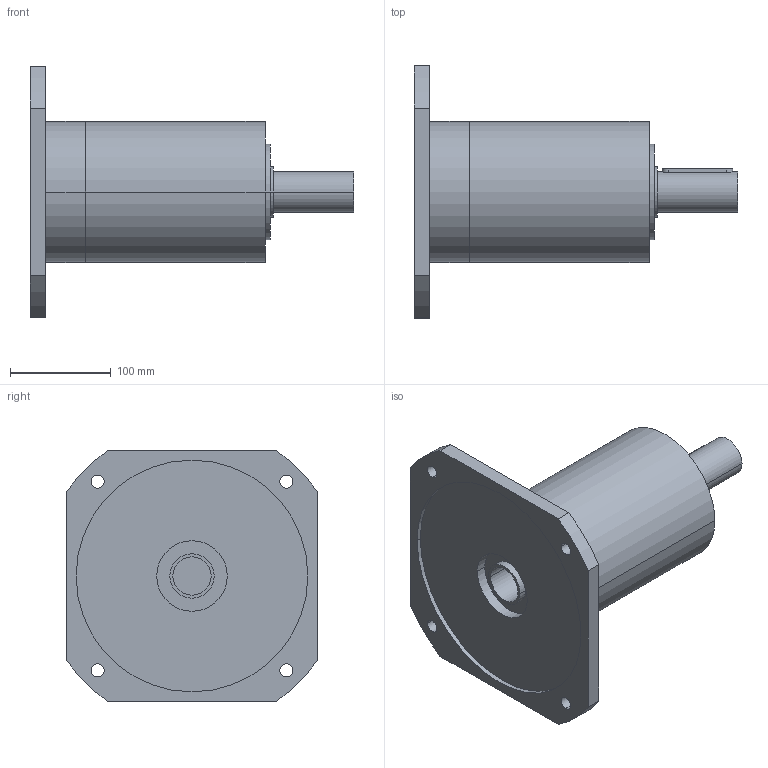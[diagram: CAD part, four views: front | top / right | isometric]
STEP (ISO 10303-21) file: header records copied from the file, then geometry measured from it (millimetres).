
FILE_DESCRIPTION(('CoCreate Modeling STEP Export'),'2;1');
FILE_NAME('GPR150_ig-9-12-16-20-28-35_40_B14_38_P07.stp','2014-08-19T17:04:33',(''),(''),'CoCreate Modeling STEP processor for AP214 (Solid Model)','CoCreate Modeling 16.00C 25-Feb-2009 (C) Parametric Technology GmbH','');
FILE_SCHEMA(('AUTOMOTIVE_DESIGN { 1 0 10303 214 1 1 1 1 }'));
Length unit declared in the file: millimetre
Products named in the file (2): GPR150_ig-9-12-16-20-28-35_40_B14_38_P07
Assembly tree (1 placements, depth 2):
  GPR150_ig-9-12-16-20-28-35_40_B14_38_P07
    GPR150_ig-9-12-16-20-28-35_40_B14_38_P07
Bounding box: 321 x 250 x 250 mm (x, y, z)
Volume: 4067371.3 mm3; surface area: 263465.4 mm2
Topology: 1 solids, 1 shells, 70 faces, 189 edges, 133 vertices
Faces by surface type: cylinder 42, plane 22, cone 6
Entity records: 1968 total; most frequent: CARTESIAN_POINT 385, ORIENTED_EDGE 374, DIRECTION 262, EDGE_CURVE 187, VERTEX_POINT 133, AXIS2_PLACEMENT_3D 98, EDGE_LOOP 92, FACE_OUTER_BOUND 70
